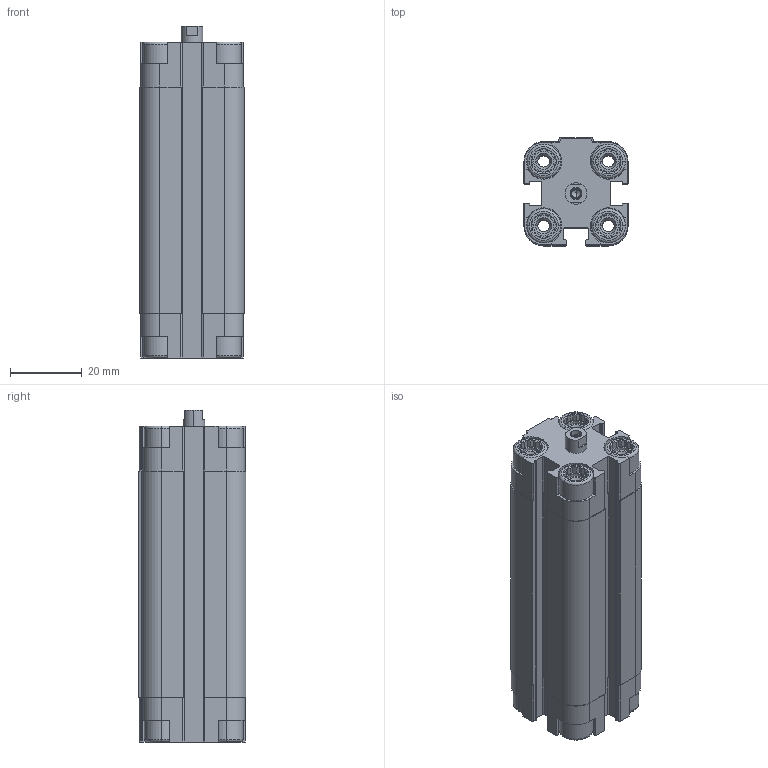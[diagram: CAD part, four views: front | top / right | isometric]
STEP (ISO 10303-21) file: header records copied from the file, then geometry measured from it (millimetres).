
FILE_DESCRIPTION (( 'STEP AP203' ), '1' );
FILE_NAME ('CDVU12-50F.STEP', '2020-03-30T14:52:39', ( '' ), ( '' ), 'SwSTEP 2.0', 'SolidWorks 2019', '' );
FILE_SCHEMA (( 'CONFIG_CONTROL_DESIGN' ));
Length unit declared in the file: millimetre
Products named in the file (1): CDVU12-50F
Bounding box: 29 x 30 x 92.5 mm (x, y, z)
Volume: 50814 mm3; surface area: 26150.6 mm2
Topology: 2 solids, 2 shells, 553 faces, 1474 edges, 959 vertices
Faces by surface type: plane 333, cylinder 158, cone 46, torus 16
Entity records: 17385 total; most frequent: CARTESIAN_POINT 3557, ORIENTED_EDGE 2936, DIRECTION 2776, EDGE_CURVE 1468, VERTEX_POINT 959, AXIS2_PLACEMENT_3D 946, VECTOR 884, LINE 884
